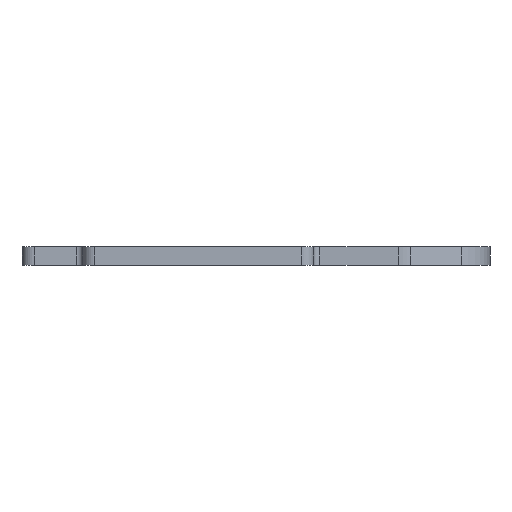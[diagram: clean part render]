
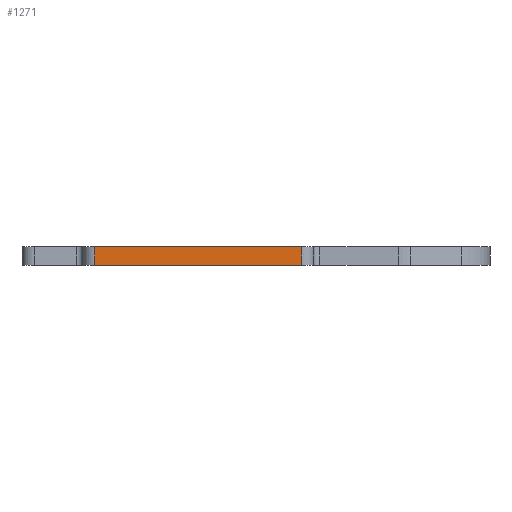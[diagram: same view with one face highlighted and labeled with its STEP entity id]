
A CAD part, left-side view. The second image highlights one B-rep face of the part: STEP entity #1271.
In plain terms, the highlighted planar face has unit normal (-1, 0, 0).
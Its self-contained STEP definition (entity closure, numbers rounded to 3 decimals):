
#217=DIRECTION('',(0.,-1.,0.));
#218=VECTOR('',#217,34.);
#219=CARTESIAN_POINT('',(-99.,17.,-1.5));
#220=LINE('',#219,#218);
#290=DIRECTION('',(0.,-1.,0.));
#291=VECTOR('',#290,34.);
#292=CARTESIAN_POINT('',(-99.,17.,1.5));
#293=LINE('',#292,#291);
#461=DIRECTION('',(0.,0.,-1.));
#462=VECTOR('',#461,3.);
#463=CARTESIAN_POINT('',(-99.,-17.,1.5));
#464=LINE('',#463,#462);
#465=DIRECTION('',(0.,0.,-1.));
#466=VECTOR('',#465,3.);
#467=CARTESIAN_POINT('',(-99.,17.,1.5));
#468=LINE('',#467,#466);
#762=CARTESIAN_POINT('',(-99.,-17.,-1.5));
#764=VERTEX_POINT('',#762);
#765=CARTESIAN_POINT('',(-99.,-17.,1.5));
#766=VERTEX_POINT('',#765);
#769=CARTESIAN_POINT('',(-99.,17.,-1.5));
#771=VERTEX_POINT('',#769);
#775=CARTESIAN_POINT('',(-99.,17.,1.5));
#776=VERTEX_POINT('',#775);
#1259=CARTESIAN_POINT('',(-99.,19.,-1.5));
#1260=DIRECTION('',(-1.,0.,0.));
#1261=DIRECTION('',(0.,-1.,0.));
#1262=AXIS2_PLACEMENT_3D('',#1259,#1260,#1261);
#1263=PLANE('',#1262);
#1264=ORIENTED_EDGE('',*,*,#1251,.T.);
#1265=ORIENTED_EDGE('',*,*,#932,.F.);
#1267=ORIENTED_EDGE('',*,*,#1266,.F.);
#1268=ORIENTED_EDGE('',*,*,#995,.T.);
#1269=EDGE_LOOP('',(#1264,#1265,#1267,#1268));
#1270=FACE_OUTER_BOUND('',#1269,.F.);
#932=EDGE_CURVE('',#771,#764,#220,.T.);
#995=EDGE_CURVE('',#776,#766,#293,.T.);
#1251=EDGE_CURVE('',#766,#764,#464,.T.);
#1266=EDGE_CURVE('',#776,#771,#468,.T.);
#1271=ADVANCED_FACE('',(#1270),#1263,.T.);
